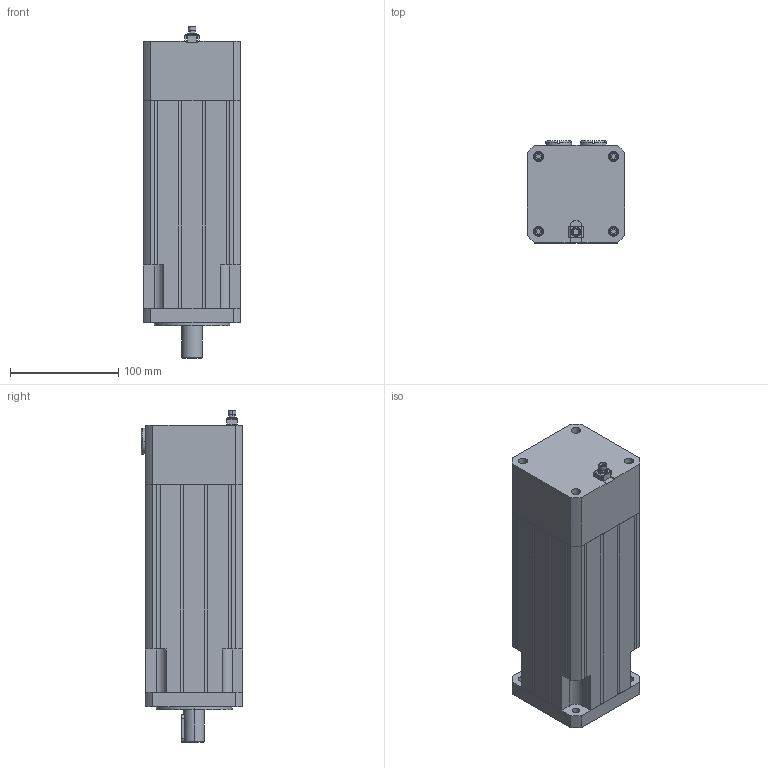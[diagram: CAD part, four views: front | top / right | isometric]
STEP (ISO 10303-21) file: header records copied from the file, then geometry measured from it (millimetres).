
FILE_DESCRIPTION (( 'STEP AP203' ), '1' );
FILE_NAME ('BTS090-10D2A2-EXD ZA.V1.STEP', '2023-03-08T02:48:53', ( 'Admin' ), ( '' ), 'SwSTEP 2.0', 'SolidWorks 2021', '' );
FILE_SCHEMA (( 'CONFIG_CONTROL_DESIGN' ));
Length unit declared in the file: millimetre
Products named in the file (1): BTS090-10D2A2-EXD  ZA.V1
Bounding box: 90 x 94 x 307 mm (x, y, z)
Volume: 2005010.4 mm3; surface area: 162914.3 mm2
Topology: 20 solids, 20 shells, 473 faces, 1113 edges, 712 vertices
Faces by surface type: plane 236, cylinder 178, torus 32, cone 27
Entity records: 13632 total; most frequent: DIRECTION 2453, CARTESIAN_POINT 2404, ORIENTED_EDGE 2178, EDGE_CURVE 1089, AXIS2_PLACEMENT_3D 901, VERTEX_POINT 712, LINE 651, VECTOR 651
